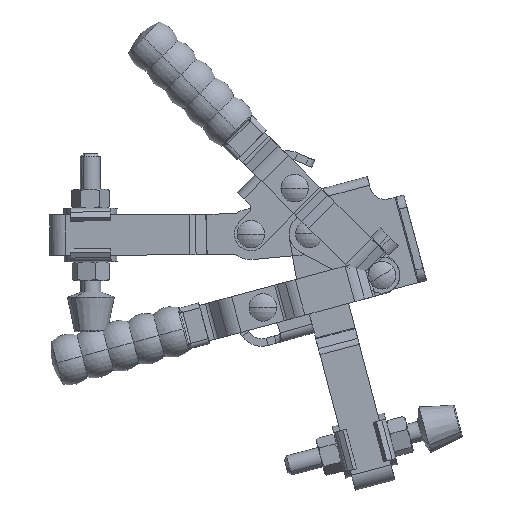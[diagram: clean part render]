
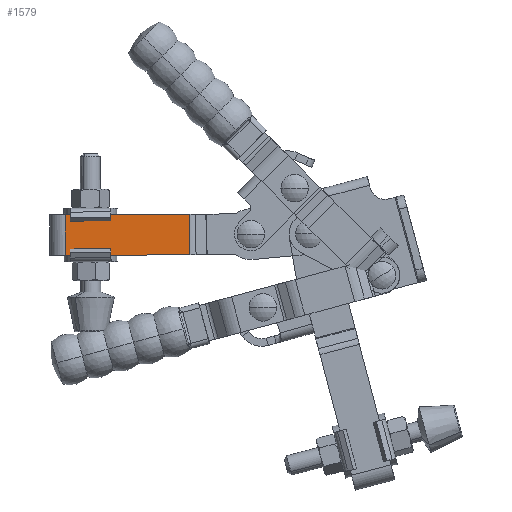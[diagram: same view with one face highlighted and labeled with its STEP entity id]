
A CAD part, left-side view. The second image highlights one B-rep face of the part: STEP entity #1579.
In plain terms, the highlighted planar face has unit normal (-1, 0, 0) as drawn and (0, 0, 1) by its records, which use the part's own axes.
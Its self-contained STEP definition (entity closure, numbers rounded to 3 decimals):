
#189 = FACE_OUTER_BOUND ( 'NONE', #11369, .T. ) ;
#217 = ORIENTED_EDGE ( 'NONE', *, *, #8966, .F. ) ;
#358 = CARTESIAN_POINT ( 'NONE',  ( -55.011, 2., 7.75 ) ) ;
#872 = DIRECTION ( 'NONE',  ( -1., 0., 0. ) ) ;
#1227 = CARTESIAN_POINT ( 'NONE',  ( -104.1, 2., 7.75 ) ) ;
#1460 = DIRECTION ( 'NONE',  ( -1., 0., 0. ) ) ;
#1544 = VERTEX_POINT ( 'NONE', #1948 ) ;
#1579 = ADVANCED_FACE ( 'NONE', ( #189 ), #3987, .F. ) ;
#1924 = ORIENTED_EDGE ( 'NONE', *, *, #10017, .F. ) ;
#1948 = CARTESIAN_POINT ( 'NONE',  ( -104.1, 18., 7.75 ) ) ;
#2218 = AXIS2_PLACEMENT_3D ( 'NONE', #7810, #9436, #872 ) ;
#2231 = LINE ( 'NONE', #7095, #5884 ) ;
#2233 = DIRECTION ( 'NONE',  ( -1., 0., 0. ) ) ;
#3039 = VECTOR ( 'NONE', #4659, 1000. ) ;
#3108 = CARTESIAN_POINT ( 'NONE',  ( 0., 18., 7.75 ) ) ;
#3782 = CARTESIAN_POINT ( 'NONE',  ( -55.011, 20., 7.75 ) ) ;
#3921 = VERTEX_POINT ( 'NONE', #1227 ) ;
#3987 = PLANE ( 'NONE',  #2218 ) ;
#4206 = DIRECTION ( 'NONE',  ( 0., -1., 0. ) ) ;
#4659 = DIRECTION ( 'NONE',  ( 0., -1., 0. ) ) ;
#4737 = VERTEX_POINT ( 'NONE', #358 ) ;
#5091 = EDGE_CURVE ( 'NONE', #1544, #3921, #2231, .T. ) ;
#5825 = VERTEX_POINT ( 'NONE', #9585 ) ;
#5884 = VECTOR ( 'NONE', #4206, 1000. ) ;
#7095 = CARTESIAN_POINT ( 'NONE',  ( -104.1, 20., 7.75 ) ) ;
#7142 = LINE ( 'NONE', #7905, #8027 ) ;
#7176 = ORIENTED_EDGE ( 'NONE', *, *, #5091, .T. ) ;
#7810 = CARTESIAN_POINT ( 'NONE',  ( -53.642, 20., 7.75 ) ) ;
#7905 = CARTESIAN_POINT ( 'NONE',  ( 0., 2., 7.75 ) ) ;
#8027 = VECTOR ( 'NONE', #1460, 1000. ) ;
#8424 = LINE ( 'NONE', #3782, #3039 ) ;
#8966 = EDGE_CURVE ( 'NONE', #5825, #4737, #8424, .T. ) ;
#9354 = ORIENTED_EDGE ( 'NONE', *, *, #10626, .T. ) ;
#9436 = DIRECTION ( 'NONE',  ( 0., 0., -1. ) ) ;
#9585 = CARTESIAN_POINT ( 'NONE',  ( -55.011, 18., 7.75 ) ) ;
#10017 = EDGE_CURVE ( 'NONE', #4737, #3921, #7142, .T. ) ;
#10626 = EDGE_CURVE ( 'NONE', #5825, #1544, #11753, .T. ) ;
#11369 = EDGE_LOOP ( 'NONE', ( #7176, #1924, #217, #9354 ) ) ;
#11451 = VECTOR ( 'NONE', #2233, 1000. ) ;
#11753 = LINE ( 'NONE', #3108, #11451 ) ;
